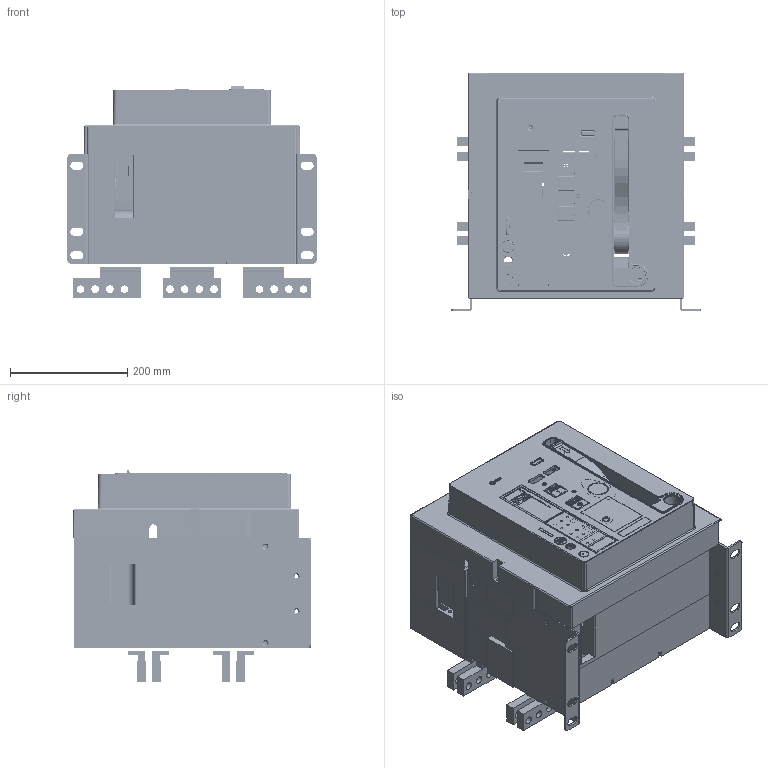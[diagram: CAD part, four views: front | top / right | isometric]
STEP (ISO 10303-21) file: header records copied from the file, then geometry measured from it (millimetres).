
FILE_DESCRIPTION((''),'2;1');
FILE_NAME('HG_15_B403H_FIX_ASM_ASM_ASM','2019-03-29T',('HHI'),(''),'PRO/ENGINEER BY PARAMETRIC TECHNOLOGY CORPORATION, 2012453','PRO/ENGINEER BY PARAMETRIC TECHNOLOGY CORPORATION, 2012453','');
FILE_SCHEMA(('CONFIG_CONTROL_DESIGN'));
Products named in the file (27): PRT0495; PRT0496; PRT0497; PRT0498; PRT0499; PRT0500; ASM0059_ASM_ASM; PRT0501; PRT0502; PRT0503; ASM0060_ASM_ASM; PRT0504; PRT0505; ASM0058_ASM_ASM; PRT0506; PRT0507; PRT0508; ASM0057_ASM_ASM; PRT0509; JOINT_FIX_TERMINAL_40H_MM_3; PRT0510; B403H_FIX_ASM_4_ASM_ASM; PRT0511; PRT0512; PRT0513; ASM0083_ASM; HG_15_B403H_FIX_ASM_ASM_ASM
Assembly tree (37 placements, depth 7):
  HG_15_B403H_FIX_ASM_ASM_ASM
    ASM0083_ASM
      B403H_FIX_ASM_4_ASM_ASM
        ASM0057_ASM_ASM
          PRT0495
          PRT0496
          ASM0058_ASM_ASM
            ASM0059_ASM_ASM
              PRT0497
              PRT0498
              PRT0499
              PRT0500
            ASM0060_ASM_ASM
              PRT0501
              PRT0502
              PRT0503
            PRT0504
            PRT0505
          PRT0506  x3
          PRT0507
          PRT0508
        PRT0509  x4
        JOINT_FIX_TERMINAL_40H_MM_3  x4
        PRT0510  x4
      PRT0511
      PRT0512
      PRT0513
Bounding box: 424.4 x 405.08 x 361.23 mm (x, y, z)
Volume: 7785850.1 mm3; surface area: 2826855.5 mm2
Topology: 31 solids, 37 shells, 7106 faces, 19865 edges, 12940 vertices
Faces by surface type: plane 4371, cylinder 2081, torus 248, extrusion 141, cone 108, sphere 96, bspline 61
Entity records: 223504 total; most frequent: CARTESIAN_POINT 45605, ORIENTED_EDGE 37780, DIRECTION 36127, EDGE_CURVE 18898, VECTOR 13661, LINE 13520, VERTEX_POINT 12358, AXIS2_PLACEMENT_3D 11233
